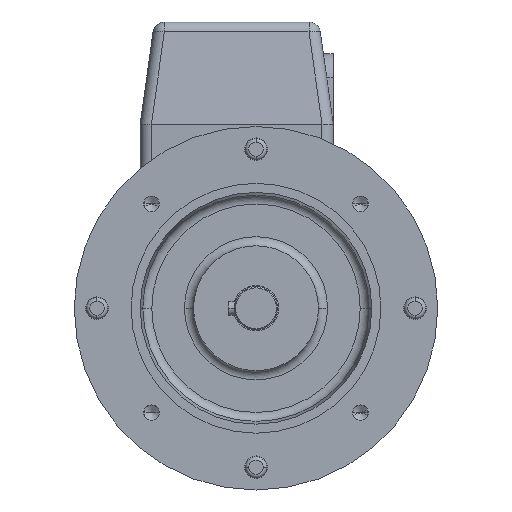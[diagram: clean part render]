
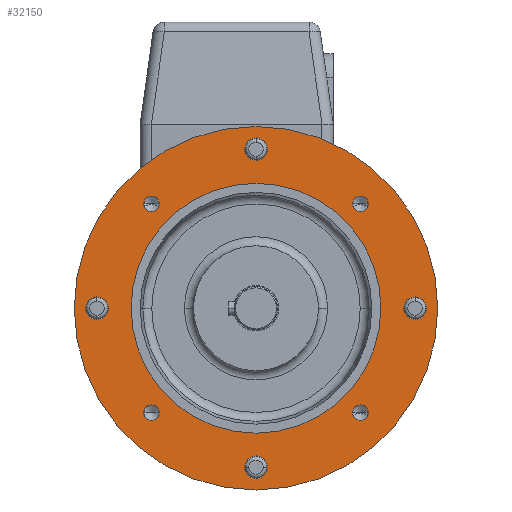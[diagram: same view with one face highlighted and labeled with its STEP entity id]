
A CAD part, left-side view. The second image highlights one B-rep face of the part: STEP entity #32150.
In plain terms, the highlighted planar face has unit normal (-1, 0, 0).
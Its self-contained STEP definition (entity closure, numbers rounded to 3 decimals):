
#30470=CARTESIAN_POINT('',(842.242,505.686,
51.494));
#30480=VERTEX_POINT('',#30470);
#30560=CARTESIAN_POINT('',(842.242,345.686,
51.494));
#30570=VERTEX_POINT('',#30560);
#30600=CARTESIAN_POINT('',(842.242,425.686,
51.494));
#30610=DIRECTION('',(-1.,0.,0.));
#30620=DIRECTION('',(0.,1.,0.));
#30630=AXIS2_PLACEMENT_3D('',#30600,#30610,#30620);
#30640=CIRCLE('',#30630,80.);
#30650=EDGE_CURVE('',#30570,#30480,#30640,.T.);
#30700=CARTESIAN_POINT('',(842.242,483.618,
33.245));
#30710=DIRECTION('',(-1.,0.,0.));
#30720=DIRECTION('',(0.,-1.,0.));
#30730=AXIS2_PLACEMENT_3D('',#30700,#30710,#30720);
#30740=PLANE('',#30730);
#30750=CARTESIAN_POINT('',(842.242,379.724,
97.456));
#30760=DIRECTION('',(-1.,0.,0.));
#30770=DIRECTION('',(0.,1.,0.));
#30780=AXIS2_PLACEMENT_3D('',#30750,#30760,#30770);
#30790=CIRCLE('',#30780,3.4);
#30800=CARTESIAN_POINT('',(842.242,383.124,
97.456));
#30810=VERTEX_POINT('',#30800);
#30820=CARTESIAN_POINT('',(842.242,376.324,
97.456));
#30830=VERTEX_POINT('',#30820);
#30840=EDGE_CURVE('',#30810,#30830,#30790,.T.);
#30850=ORIENTED_EDGE('',*,*,#30840,.F.);
#30860=EDGE_CURVE('',#30830,#30810,#30790,.T.);
#30870=ORIENTED_EDGE('',*,*,#30860,.F.);
#30880=EDGE_LOOP('',(#30870,#30850));
#30890=FACE_BOUND('',#30880,.T.);
#30900=CARTESIAN_POINT('',(842.242,471.648,
97.456));
#30910=DIRECTION('',(-1.,0.,0.));
#30920=DIRECTION('',(0.,1.,0.));
#30930=AXIS2_PLACEMENT_3D('',#30900,#30910,#30920);
#30940=CIRCLE('',#30930,3.4);
#30950=CARTESIAN_POINT('',(842.242,475.048,
97.456));
#30960=VERTEX_POINT('',#30950);
#30970=CARTESIAN_POINT('',(842.242,468.248,
97.456));
#30980=VERTEX_POINT('',#30970);
#30990=EDGE_CURVE('',#30960,#30980,#30940,.T.);
#31000=ORIENTED_EDGE('',*,*,#30990,.F.);
#31010=EDGE_CURVE('',#30980,#30960,#30940,.T.);
#31020=ORIENTED_EDGE('',*,*,#31010,.F.);
#31030=EDGE_LOOP('',(#31020,#31000));
#31040=FACE_BOUND('',#31030,.T.);
#31050=CARTESIAN_POINT('',(842.242,355.686,
51.494));
#31060=DIRECTION('',(-1.,0.,0.));
#31070=DIRECTION('',(0.,-1.,0.));
#31080=AXIS2_PLACEMENT_3D('',#31050,#31060,#31070);
#31090=CIRCLE('',#31080,5.);
#31100=CARTESIAN_POINT('',(842.242,350.686,
51.494));
#31110=VERTEX_POINT('',#31100);
#31120=CARTESIAN_POINT('',(842.242,360.686,
51.494));
#31130=VERTEX_POINT('',#31120);
#31140=EDGE_CURVE('',#31110,#31130,#31090,.T.);
#31150=ORIENTED_EDGE('',*,*,#31140,.F.);
#31160=EDGE_CURVE('',#31130,#31110,#31090,.T.);
#31170=ORIENTED_EDGE('',*,*,#31160,.F.);
#31180=EDGE_LOOP('',(#31170,#31150));
#31190=FACE_BOUND('',#31180,.T.);
#31200=EDGE_CURVE('',#30480,#30570,#30640,.T.);
#31210=ORIENTED_EDGE('',*,*,#31200,.T.);
#31220=ORIENTED_EDGE('',*,*,#30650,.T.);
#31230=EDGE_LOOP('',(#31220,#31210));
#31240=FACE_OUTER_BOUND('',#31230,.T.);
#31250=CARTESIAN_POINT('',(842.242,425.686,
51.494));
#31260=DIRECTION('',(1.,0.,0.));
#31270=DIRECTION('',(0.,-1.,0.));
#31280=AXIS2_PLACEMENT_3D('',#31250,#31260,#31270);
#31290=CIRCLE('',#31280,55.);
#31300=CARTESIAN_POINT('',(842.242,370.686,
51.494));
#31310=VERTEX_POINT('',#31300);
#31320=CARTESIAN_POINT('',(842.242,480.686,
51.494));
#31330=VERTEX_POINT('',#31320);
#31340=EDGE_CURVE('',#31310,#31330,#31290,.T.);
#31350=ORIENTED_EDGE('',*,*,#31340,.T.);
#31360=EDGE_CURVE('',#31330,#31310,#31290,.T.);
#31370=ORIENTED_EDGE('',*,*,#31360,.T.);
#31380=EDGE_LOOP('',(#31370,#31350));
#31390=FACE_BOUND('',#31380,.T.);
#31400=CARTESIAN_POINT('',(842.242,495.686,
51.494));
#31410=DIRECTION('',(-1.,0.,0.));
#31420=DIRECTION('',(0.,-1.,0.));
#31430=AXIS2_PLACEMENT_3D('',#31400,#31410,#31420);
#31440=CIRCLE('',#31430,5.);
#31450=CARTESIAN_POINT('',(842.242,490.686,
51.494));
#31460=VERTEX_POINT('',#31450);
#31470=CARTESIAN_POINT('',(842.242,500.686,
51.494));
#31480=VERTEX_POINT('',#31470);
#31490=EDGE_CURVE('',#31460,#31480,#31440,.T.);
#31500=ORIENTED_EDGE('',*,*,#31490,.F.);
#31510=EDGE_CURVE('',#31480,#31460,#31440,.T.);
#31520=ORIENTED_EDGE('',*,*,#31510,.F.);
#31530=EDGE_LOOP('',(#31520,#31500));
#31540=FACE_BOUND('',#31530,.T.);
#31550=CARTESIAN_POINT('',(842.242,425.686,
121.494));
#31560=DIRECTION('',(-1.,0.,0.));
#31570=DIRECTION('',(0.,-1.,0.));
#31580=AXIS2_PLACEMENT_3D('',#31550,#31560,#31570);
#31590=CIRCLE('',#31580,5.);
#31600=CARTESIAN_POINT('',(842.242,420.686,
121.494));
#31610=VERTEX_POINT('',#31600);
#31620=CARTESIAN_POINT('',(842.242,430.686,
121.494));
#31630=VERTEX_POINT('',#31620);
#31640=EDGE_CURVE('',#31610,#31630,#31590,.T.);
#31650=ORIENTED_EDGE('',*,*,#31640,.F.);
#31660=EDGE_CURVE('',#31630,#31610,#31590,.T.);
#31670=ORIENTED_EDGE('',*,*,#31660,.F.);
#31680=EDGE_LOOP('',(#31670,#31650));
#31690=FACE_BOUND('',#31680,.T.);
#31700=CARTESIAN_POINT('',(842.242,425.686,
-18.506));
#31710=DIRECTION('',(-1.,0.,0.));
#31720=DIRECTION('',(0.,-1.,0.));
#31730=AXIS2_PLACEMENT_3D('',#31700,#31710,#31720);
#31740=CIRCLE('',#31730,5.);
#31750=CARTESIAN_POINT('',(842.242,420.686,
-18.506));
#31760=VERTEX_POINT('',#31750);
#31770=CARTESIAN_POINT('',(842.242,430.686,
-18.506));
#31780=VERTEX_POINT('',#31770);
#31790=EDGE_CURVE('',#31760,#31780,#31740,.T.);
#31800=ORIENTED_EDGE('',*,*,#31790,.F.);
#31810=EDGE_CURVE('',#31780,#31760,#31740,.T.);
#31820=ORIENTED_EDGE('',*,*,#31810,.F.);
#31830=EDGE_LOOP('',(#31820,#31800));
#31840=FACE_BOUND('',#31830,.T.);
#31850=CARTESIAN_POINT('',(842.242,379.724,
5.532));
#31860=DIRECTION('',(-1.,0.,0.));
#31870=DIRECTION('',(0.,1.,0.));
#31880=AXIS2_PLACEMENT_3D('',#31850,#31860,#31870);
#31890=CIRCLE('',#31880,3.4);
#31900=CARTESIAN_POINT('',(842.242,383.124,
5.532));
#31910=VERTEX_POINT('',#31900);
#31920=CARTESIAN_POINT('',(842.242,376.324,
5.532));
#31930=VERTEX_POINT('',#31920);
#31940=EDGE_CURVE('',#31910,#31930,#31890,.T.);
#31950=ORIENTED_EDGE('',*,*,#31940,.F.);
#31960=EDGE_CURVE('',#31930,#31910,#31890,.T.);
#31970=ORIENTED_EDGE('',*,*,#31960,.F.);
#31980=EDGE_LOOP('',(#31970,#31950));
#31990=FACE_BOUND('',#31980,.T.);
#32000=CARTESIAN_POINT('',(842.242,471.648,
5.532));
#32010=DIRECTION('',(-1.,0.,0.));
#32020=DIRECTION('',(0.,1.,0.));
#32030=AXIS2_PLACEMENT_3D('',#32000,#32010,#32020);
#32040=CIRCLE('',#32030,3.4);
#32050=CARTESIAN_POINT('',(842.242,475.048,
5.532));
#32060=VERTEX_POINT('',#32050);
#32070=CARTESIAN_POINT('',(842.242,468.248,
5.532));
#32080=VERTEX_POINT('',#32070);
#32090=EDGE_CURVE('',#32060,#32080,#32040,.T.);
#32100=ORIENTED_EDGE('',*,*,#32090,.F.);
#32110=EDGE_CURVE('',#32080,#32060,#32040,.T.);
#32120=ORIENTED_EDGE('',*,*,#32110,.F.);
#32130=EDGE_LOOP('',(#32120,#32100));
#32140=FACE_BOUND('',#32130,.T.);
#32150=ADVANCED_FACE('',(#30890,#31040,#31190,#31240,#31390,#31540,
#31690,#31840,#31990,#32140),#30740,.T.);
